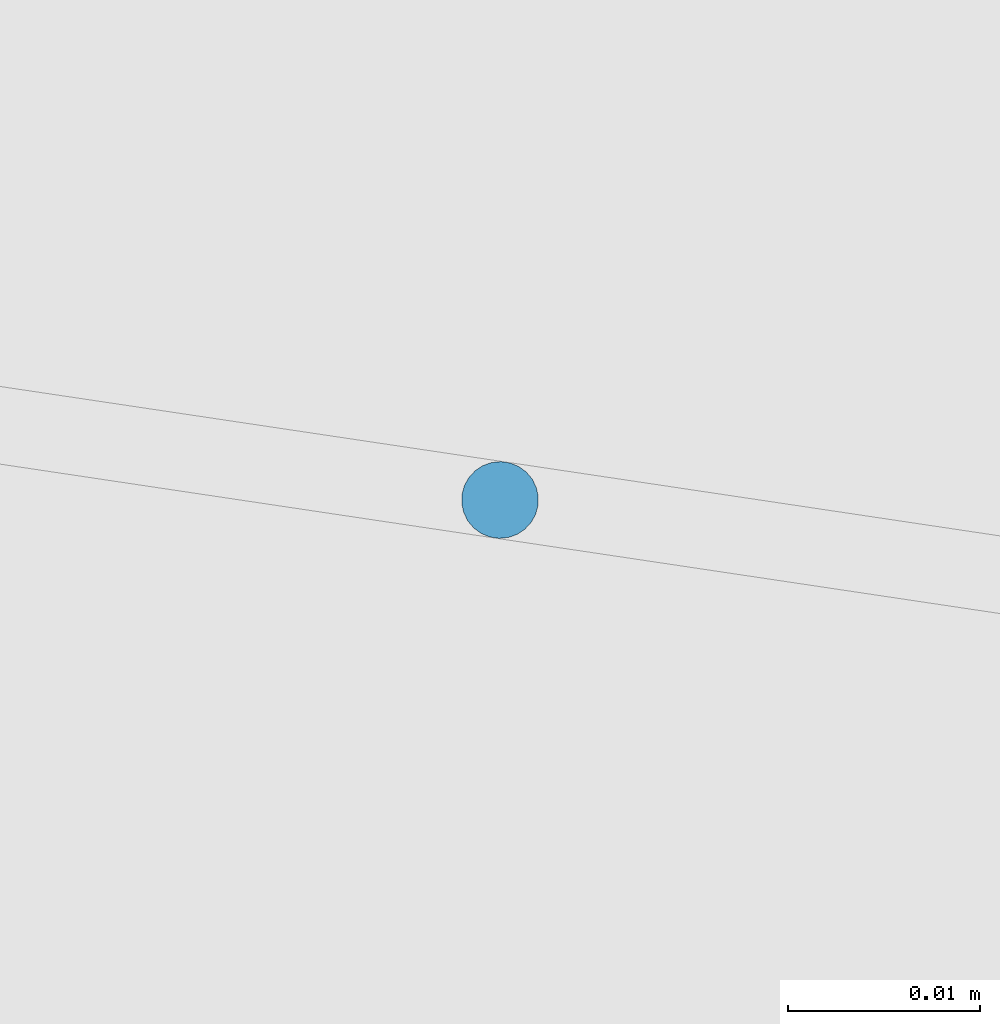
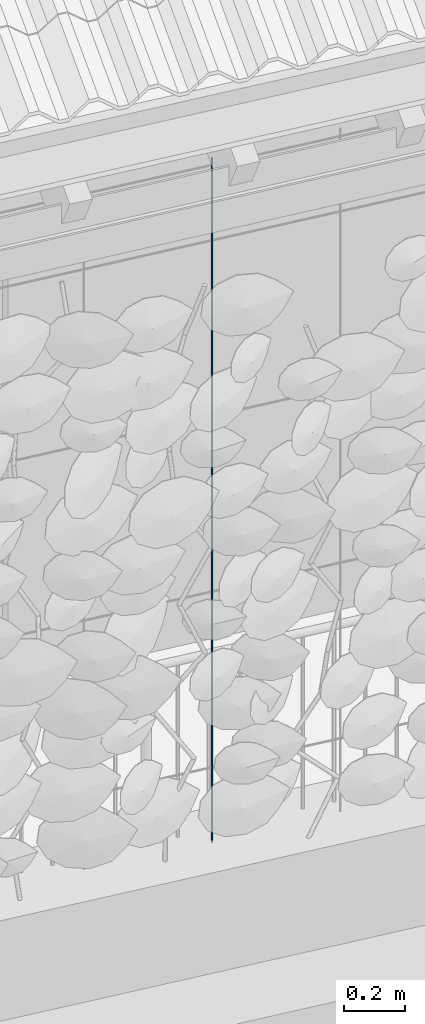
# One storey, part 69 of 131: 1 member, 1 element without a shape of its own.
"""IFC4 building model written with IfcOpenShell, lengths in metres."""

from ifc_helpers import new_model, si_unit, direction, frame, origin_with_axes, place, context, subcontext, project, spatial, circle, extrude, material, material_profile, profile_set, profile_usage, type_object, element, aggregate, save


model = new_model("IFC4")

# Units and contexts
model_context = context("Model", 3, precision=1e-05, world=origin_with_axes(), true_north=direction((0.0, 1.0)))
body_context = subcontext(model_context, "Body", "Model", "MODEL_VIEW")
ifc_project = project(units=[si_unit("AREAUNIT", "SQUARE_METRE"), si_unit("VOLUMEUNIT", "CUBIC_METRE"), si_unit("LENGTHUNIT", "METRE")], contexts=[model_context])

# Site, building, storey
site_placement = place(None, origin_with_axes())
site = spatial("IfcSite", under=ifc_project, at=site_placement, Name="Lares · Rua das Mercês · artigo 4771")
building_placement = place(site_placement, frame((15.0, 9.7, 14.65), z_axis=(0.0, 0.0, 1.0), x_axis=(0.989015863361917, -0.147809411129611, 0.0)))
building = spatial("IfcBuilding", under=site, at=building_placement, Name="Casa Sobreposta")
storey_placement = place(building_placement, origin_with_axes())
storey = spatial("IfcBuildingStorey", under=building, at=storey_placement, Name="00 · Habitação e estacionamento", Elevation=14.65)

# Assembly, member
assembly_placement = place(storey_placement, origin_with_axes())
assembly = element("IfcElementAssembly", 1, at=assembly_placement, inside=storey, Name="Fachada sul e pátio · estrutura e trepadeiras", ObjectType="LIVING_SHADE_TRELLIS", PredefinedType="USERDEFINED")
ifc_material = material(Name="Aço galvanizado / Stahl verzinkt", Category="steel")
ifc_material_profile = material_profile(ifc_material, circle(Radius=0.002))
ifc_profile_set = profile_set([ifc_material_profile], Name="D0.004")
ifc_profile_usage = profile_usage(ifc_profile_set)
member_type = type_object("IfcMemberType", Name="D0.004 / galvanized", PredefinedType="NOTDEFINED", material=ifc_profile_set)
member_placement = place(assembly_placement, frame((18.3, -1.61, 0.35), z_axis=(0.0, 0.0, 1.0), x_axis=(1.0, 0.0, 0.0)))
member = element("IfcMember", 2, at=member_placement, type_object=member_type, material=ifc_profile_usage, Name="Trepadeiras · fio vertical", context=body_context, shape_type="SweptSolid", body=[
    extrude(circle(Radius=0.002), origin_with_axes(), (0.0, 0.0, 1.0), 2.73),
])
aggregate(assembly, [member])

save(model, "model.ifc")
